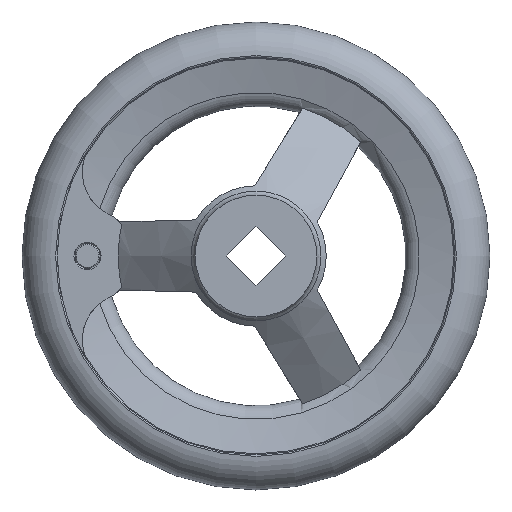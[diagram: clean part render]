
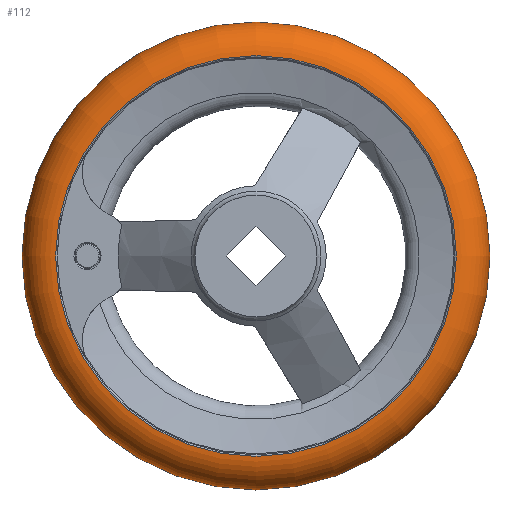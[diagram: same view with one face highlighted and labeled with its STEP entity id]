
A CAD part, left-side view. The second image highlights one B-rep face of the part: STEP entity #112.
In plain terms, the highlighted toroidal (fillet/blend) face has major radius 42.493 mm and minor radius 7.507 mm.
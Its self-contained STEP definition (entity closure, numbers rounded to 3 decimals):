
#112 = ADVANCED_FACE( '', ( #216, #217, #218 ), #219, .T. );
#216 = FACE_BOUND( '', #370, .T. );
#217 = FACE_OUTER_BOUND( '', #371, .T. );
#218 = FACE_OUTER_BOUND( '', #372, .T. );
#219 = TOROIDAL_SURFACE( '', #373, 42.493, 7.507 );
#370 = VERTEX_LOOP( '', #676 );
#371 = EDGE_LOOP( '', ( #677 ) );
#372 = EDGE_LOOP( '', ( #678 ) );
#373 = AXIS2_PLACEMENT_3D( '', #679, #680, #681 );
#676 = VERTEX_POINT( '', #848 );
#677 = ORIENTED_EDGE( '', *, *, #849, .T. );
#678 = ORIENTED_EDGE( '', *, *, #850, .F. );
#679 = CARTESIAN_POINT( '', ( 25.5, 0., 0. ) );
#680 = DIRECTION( '', ( 1., 0., 0. ) );
#681 = DIRECTION( '', ( 0., 1., 0. ) );
#848 = CARTESIAN_POINT( '', ( 25.5, 50., 0. ) );
#849 = EDGE_CURVE( '', #1027, #1027, #1028, .T. );
#850 = EDGE_CURVE( '', #1029, #1029, #1030, .T. );
#1027 = VERTEX_POINT( '', #1567 );
#1028 = CIRCLE( '', #1568, 42.813 );
#1029 = VERTEX_POINT( '', #1569 );
#1030 = CIRCLE( '', #1570, 42.813 );
#1567 = CARTESIAN_POINT( '', ( 18., 42.813, 0. ) );
#1568 = AXIS2_PLACEMENT_3D( '', #1740, #1741, #1742 );
#1569 = CARTESIAN_POINT( '', ( 33., 42.813, 0. ) );
#1570 = AXIS2_PLACEMENT_3D( '', #1743, #1744, #1745 );
#1740 = CARTESIAN_POINT( '', ( 18., 0., 0. ) );
#1741 = DIRECTION( '', ( 1., 0., 0. ) );
#1742 = DIRECTION( '', ( 0., 1., 0. ) );
#1743 = CARTESIAN_POINT( '', ( 33., 0., 0. ) );
#1744 = DIRECTION( '', ( 1., 0., 0. ) );
#1745 = DIRECTION( '', ( 0., 1., 0. ) );
